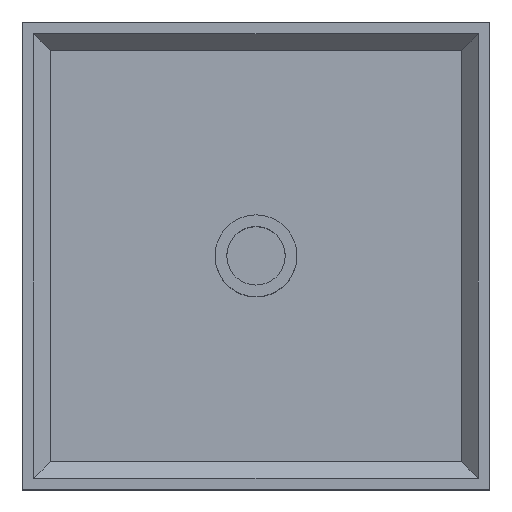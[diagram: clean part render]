
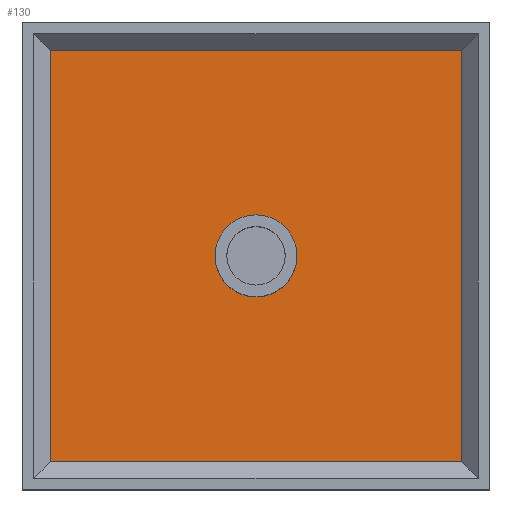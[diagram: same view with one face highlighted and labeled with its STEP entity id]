
A CAD part, top view. The second image highlights one B-rep face of the part: STEP entity #130.
In plain terms, the highlighted planar face has unit normal (0, 0, 1).
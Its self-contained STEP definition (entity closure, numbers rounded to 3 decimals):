
#17 = VERTEX_POINT ( 'NONE', #38 ) ;
#18 = CARTESIAN_POINT ( 'NONE',  ( 3.5, 0., -1.5 ) ) ;
#21 = VERTEX_POINT ( 'NONE', #480 ) ;
#34 = ORIENTED_EDGE ( 'NONE', *, *, #402, .F. ) ;
#37 = DIRECTION ( 'NONE',  ( 0., 1., 0. ) ) ;
#38 = CARTESIAN_POINT ( 'NONE',  ( -17.586, -17.586, -1.5 ) ) ;
#39 = EDGE_CURVE ( 'NONE', #89, #648, #324, .T. ) ;
#41 = PLANE ( 'NONE',  #574 ) ;
#64 = CARTESIAN_POINT ( 'NONE',  ( -3.5, 0., -1.5 ) ) ;
#70 = LINE ( 'NONE', #357, #219 ) ;
#71 = ORIENTED_EDGE ( 'NONE', *, *, #104, .F. ) ;
#89 = VERTEX_POINT ( 'NONE', #64 ) ;
#92 = DIRECTION ( 'NONE',  ( 1., 0., 0. ) ) ;
#94 = VERTEX_POINT ( 'NONE', #502 ) ;
#95 = DIRECTION ( 'NONE',  ( 1., 0., 0. ) ) ;
#104 = EDGE_CURVE ( 'NONE', #240, #17, #578, .T. ) ;
#112 = CARTESIAN_POINT ( 'NONE',  ( -17.586, 20., -1.5 ) ) ;
#121 = EDGE_LOOP ( 'NONE', ( #505, #34 ) ) ;
#130 = ADVANCED_FACE ( 'NONE', ( #498, #381 ), #41, .T. ) ;
#150 = VECTOR ( 'NONE', #37, 1000. ) ;
#162 = AXIS2_PLACEMENT_3D ( 'NONE', #243, #166, #92 ) ;
#166 = DIRECTION ( 'NONE',  ( 0., 0., 1. ) ) ;
#170 = DIRECTION ( 'NONE',  ( 0., 0., 1. ) ) ;
#182 = LINE ( 'NONE', #112, #150 ) ;
#210 = CARTESIAN_POINT ( 'NONE',  ( 17.586, -17.586, -1.5 ) ) ;
#219 = VECTOR ( 'NONE', #276, 1000. ) ;
#234 = EDGE_LOOP ( 'NONE', ( #71, #631, #419, #549 ) ) ;
#237 = AXIS2_PLACEMENT_3D ( 'NONE', #418, #335, #256 ) ;
#239 = DIRECTION ( 'NONE',  ( 0., -1., 0. ) ) ;
#240 = VERTEX_POINT ( 'NONE', #210 ) ;
#243 = CARTESIAN_POINT ( 'NONE',  ( 0., 0., -1.5 ) ) ;
#246 = CARTESIAN_POINT ( 'NONE',  ( 0., 0., -1.5 ) ) ;
#256 = DIRECTION ( 'NONE',  ( 1., 0., 0. ) ) ;
#268 = CIRCLE ( 'NONE', #237, 3.5 ) ;
#276 = DIRECTION ( 'NONE',  ( 1., 0., 0. ) ) ;
#315 = CARTESIAN_POINT ( 'NONE',  ( 17.586, 20., -1.5 ) ) ;
#324 = CIRCLE ( 'NONE', #162, 3.5 ) ;
#335 = DIRECTION ( 'NONE',  ( 0., 0., 1. ) ) ;
#348 = DIRECTION ( 'NONE',  ( -1., 0., 0. ) ) ;
#357 = CARTESIAN_POINT ( 'NONE',  ( -20., 17.586, -1.5 ) ) ;
#364 = EDGE_CURVE ( 'NONE', #94, #21, #70, .T. ) ;
#381 = FACE_BOUND ( 'NONE', #121, .T. ) ;
#398 = LINE ( 'NONE', #315, #438 ) ;
#402 = EDGE_CURVE ( 'NONE', #648, #89, #268, .T. ) ;
#418 = CARTESIAN_POINT ( 'NONE',  ( 0., 0., -1.5 ) ) ;
#419 = ORIENTED_EDGE ( 'NONE', *, *, #364, .F. ) ;
#424 = EDGE_CURVE ( 'NONE', #21, #240, #398, .T. ) ;
#427 = CARTESIAN_POINT ( 'NONE',  ( -20., -17.586, -1.5 ) ) ;
#438 = VECTOR ( 'NONE', #239, 1000. ) ;
#442 = VECTOR ( 'NONE', #348, 1000. ) ;
#480 = CARTESIAN_POINT ( 'NONE',  ( 17.586, 17.586, -1.5 ) ) ;
#498 = FACE_OUTER_BOUND ( 'NONE', #234, .T. ) ;
#502 = CARTESIAN_POINT ( 'NONE',  ( -17.586, 17.586, -1.5 ) ) ;
#505 = ORIENTED_EDGE ( 'NONE', *, *, #39, .F. ) ;
#517 = EDGE_CURVE ( 'NONE', #17, #94, #182, .T. ) ;
#549 = ORIENTED_EDGE ( 'NONE', *, *, #517, .F. ) ;
#574 = AXIS2_PLACEMENT_3D ( 'NONE', #246, #170, #95 ) ;
#578 = LINE ( 'NONE', #427, #442 ) ;
#631 = ORIENTED_EDGE ( 'NONE', *, *, #424, .F. ) ;
#648 = VERTEX_POINT ( 'NONE', #18 ) ;
